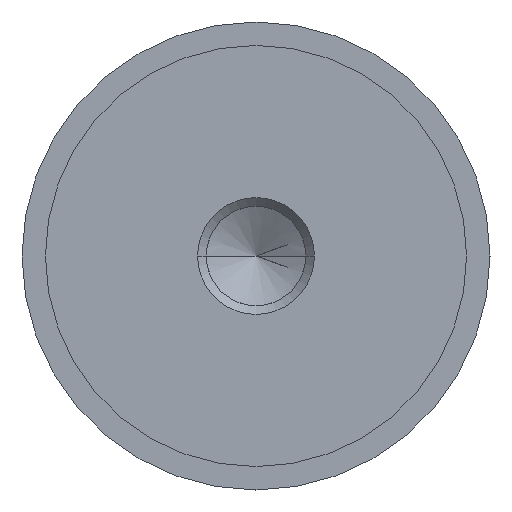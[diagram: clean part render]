
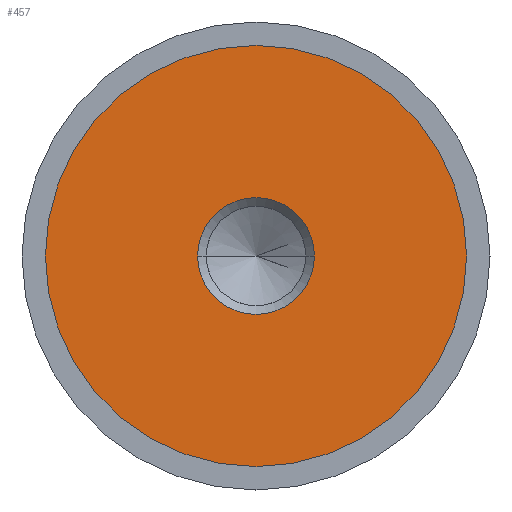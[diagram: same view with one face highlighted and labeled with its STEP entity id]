
A CAD part, left-side view. The second image highlights one B-rep face of the part: STEP entity #457.
In plain terms, the highlighted planar face has unit normal (-1, 0, 0).
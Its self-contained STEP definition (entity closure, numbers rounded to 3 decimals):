
#11 = DIRECTION ( 'NONE',  ( 1., 0., 0. ) ) ;
#21 = CIRCLE ( 'NONE', #748, 18. ) ;
#27 = DIRECTION ( 'NONE',  ( 0., 0., 1. ) ) ;
#55 = EDGE_CURVE ( 'NONE', #399, #718, #21, .T. ) ;
#65 = DIRECTION ( 'NONE',  ( 0., 0., -1. ) ) ;
#80 = AXIS2_PLACEMENT_3D ( 'NONE', #83, #11, #740 ) ;
#83 = CARTESIAN_POINT ( 'NONE',  ( -17.49, 18., 0. ) ) ;
#103 = DIRECTION ( 'NONE',  ( 0., 0., -1. ) ) ;
#108 = VERTEX_POINT ( 'NONE', #622 ) ;
#127 = EDGE_LOOP ( 'NONE', ( #163, #135 ) ) ;
#135 = ORIENTED_EDGE ( 'NONE', *, *, #281, .T. ) ;
#136 = PLANE ( 'NONE',  #80 ) ;
#163 = ORIENTED_EDGE ( 'NONE', *, *, #755, .T. ) ;
#179 = DIRECTION ( 'NONE',  ( -1., 0., 0. ) ) ;
#187 = CARTESIAN_POINT ( 'NONE',  ( -17.49, 0., -18. ) ) ;
#206 = AXIS2_PLACEMENT_3D ( 'NONE', #371, #686, #65 ) ;
#264 = EDGE_CURVE ( 'NONE', #718, #399, #726, .T. ) ;
#281 = EDGE_CURVE ( 'NONE', #455, #108, #496, .T. ) ;
#316 = ORIENTED_EDGE ( 'NONE', *, *, #264, .T. ) ;
#330 = EDGE_LOOP ( 'NONE', ( #570, #316 ) ) ;
#341 = AXIS2_PLACEMENT_3D ( 'NONE', #666, #476, #103 ) ;
#371 = CARTESIAN_POINT ( 'NONE',  ( -17.49, 0., 0. ) ) ;
#399 = VERTEX_POINT ( 'NONE', #554 ) ;
#416 = CARTESIAN_POINT ( 'NONE',  ( -17.49, 0., 0. ) ) ;
#433 = FACE_BOUND ( 'NONE', #127, .T. ) ;
#455 = VERTEX_POINT ( 'NONE', #754 ) ;
#457 = ADVANCED_FACE ( 'NONE', ( #433, #694 ), #136, .F. ) ;
#476 = DIRECTION ( 'NONE',  ( 1., 0., 0. ) ) ;
#485 = CARTESIAN_POINT ( 'NONE',  ( -17.49, 0., 0. ) ) ;
#496 = CIRCLE ( 'NONE', #341, 4.99 ) ;
#554 = CARTESIAN_POINT ( 'NONE',  ( -17.49, 0., 18. ) ) ;
#570 = ORIENTED_EDGE ( 'NONE', *, *, #55, .T. ) ;
#612 = DIRECTION ( 'NONE',  ( -1., 0., 0. ) ) ;
#622 = CARTESIAN_POINT ( 'NONE',  ( -17.49, -4.99, 0. ) ) ;
#666 = CARTESIAN_POINT ( 'NONE',  ( -17.49, 0., 0. ) ) ;
#686 = DIRECTION ( 'NONE',  ( 1., 0., 0. ) ) ;
#694 = FACE_OUTER_BOUND ( 'NONE', #330, .T. ) ;
#718 = VERTEX_POINT ( 'NONE', #187 ) ;
#726 = CIRCLE ( 'NONE', #782, 18. ) ;
#735 = CIRCLE ( 'NONE', #206, 4.99 ) ;
#740 = DIRECTION ( 'NONE',  ( 0., 0., -1. ) ) ;
#748 = AXIS2_PLACEMENT_3D ( 'NONE', #485, #179, #27 ) ;
#754 = CARTESIAN_POINT ( 'NONE',  ( -17.49, 4.99, 0. ) ) ;
#755 = EDGE_CURVE ( 'NONE', #108, #455, #735, .T. ) ;
#774 = DIRECTION ( 'NONE',  ( 0., 0., 1. ) ) ;
#782 = AXIS2_PLACEMENT_3D ( 'NONE', #416, #612, #774 ) ;
